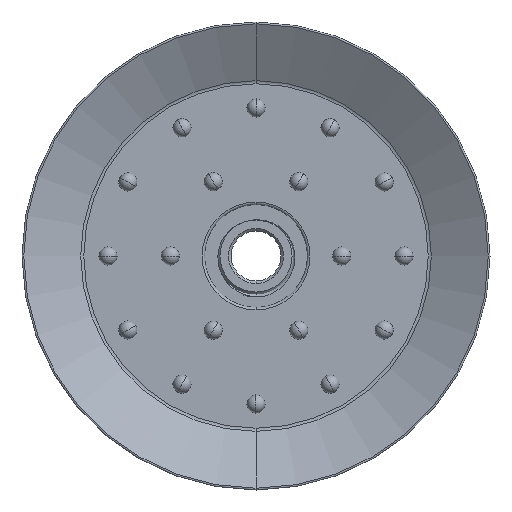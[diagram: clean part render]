
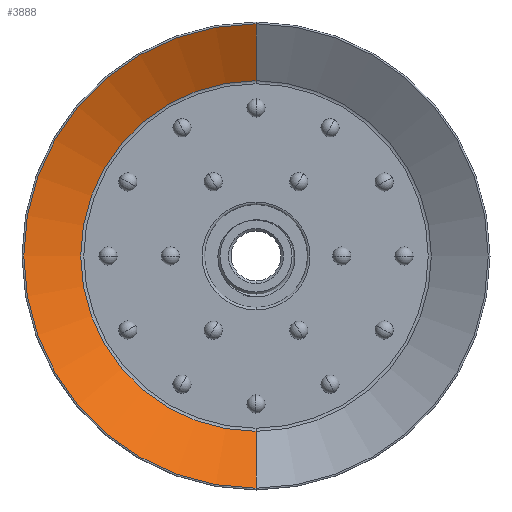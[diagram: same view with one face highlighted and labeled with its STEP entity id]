
A CAD part, front view. The second image highlights one B-rep face of the part: STEP entity #3888.
In plain terms, the highlighted conical face has half-angle 60.126 degrees and reference radius 37.224 mm.
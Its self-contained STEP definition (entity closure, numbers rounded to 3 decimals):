
#852 = VERTEX_POINT ( 'NONE', #4500 ) ;
#1057 = ORIENTED_EDGE ( 'NONE', *, *, #7362, .T. ) ;
#1060 = LINE ( 'NONE', #1278, #2463 ) ;
#1158 = VERTEX_POINT ( 'NONE', #1230 ) ;
#1230 = CARTESIAN_POINT ( 'NONE',  ( 0., -15.351, -37.224 ) ) ;
#1269 = DIRECTION ( 'NONE',  ( 0., 0., -1. ) ) ;
#1278 = CARTESIAN_POINT ( 'NONE',  ( 0., -15.351, 37.224 ) ) ;
#1674 = CONICAL_SURFACE ( 'NONE', #7276, 37.224, 1.049 ) ;
#1741 = EDGE_CURVE ( 'NONE', #1158, #852, #3464, .T. ) ;
#1890 = AXIS2_PLACEMENT_3D ( 'NONE', #7246, #1966, #1269 ) ;
#1929 = EDGE_CURVE ( 'NONE', #7048, #1158, #2646, .T. ) ;
#1966 = DIRECTION ( 'NONE',  ( 0., 1., 0. ) ) ;
#2463 = VECTOR ( 'NONE', #7473, 1000. ) ;
#2646 = LINE ( 'NONE', #7545, #7143 ) ;
#2813 = ORIENTED_EDGE ( 'NONE', *, *, #3668, .T. ) ;
#2823 = CARTESIAN_POINT ( 'NONE',  ( 0., -10.11, 28.099 ) ) ;
#2834 = DIRECTION ( 'NONE',  ( 0., -0.498, -0.867 ) ) ;
#2917 = ORIENTED_EDGE ( 'NONE', *, *, #1741, .F. ) ;
#3314 = DIRECTION ( 'NONE',  ( 0., 0., 1. ) ) ;
#3449 = FACE_OUTER_BOUND ( 'NONE', #5419, .T. ) ;
#3464 = CIRCLE ( 'NONE', #4016, 37.224 ) ;
#3668 = EDGE_CURVE ( 'NONE', #7048, #3920, #5262, .T. ) ;
#3881 = CARTESIAN_POINT ( 'NONE',  ( 0., -15.351, 0. ) ) ;
#3888 = ADVANCED_FACE ( 'NONE', ( #3449 ), #1674, .F. ) ;
#3899 = DIRECTION ( 'NONE',  ( 0., 1., 0. ) ) ;
#3920 = VERTEX_POINT ( 'NONE', #2823 ) ;
#4016 = AXIS2_PLACEMENT_3D ( 'NONE', #3881, #3899, #3314 ) ;
#4500 = CARTESIAN_POINT ( 'NONE',  ( 0., -15.351, 37.224 ) ) ;
#4631 = DIRECTION ( 'NONE',  ( 0., 0., -1. ) ) ;
#5262 = CIRCLE ( 'NONE', #1890, 28.099 ) ;
#5419 = EDGE_LOOP ( 'NONE', ( #2813, #1057, #2917, #7432 ) ) ;
#5766 = CARTESIAN_POINT ( 'NONE',  ( 0., -10.11, -28.099 ) ) ;
#6947 = DIRECTION ( 'NONE',  ( 0., -1., 0. ) ) ;
#7048 = VERTEX_POINT ( 'NONE', #5766 ) ;
#7143 = VECTOR ( 'NONE', #2834, 1000. ) ;
#7246 = CARTESIAN_POINT ( 'NONE',  ( 0., -10.11, 0. ) ) ;
#7276 = AXIS2_PLACEMENT_3D ( 'NONE', #7611, #6947, #4631 ) ;
#7362 = EDGE_CURVE ( 'NONE', #3920, #852, #1060, .T. ) ;
#7432 = ORIENTED_EDGE ( 'NONE', *, *, #1929, .F. ) ;
#7473 = DIRECTION ( 'NONE',  ( 0., -0.498, 0.867 ) ) ;
#7545 = CARTESIAN_POINT ( 'NONE',  ( 0., -15.351, -37.224 ) ) ;
#7611 = CARTESIAN_POINT ( 'NONE',  ( 0., -15.351, 0. ) ) ;
